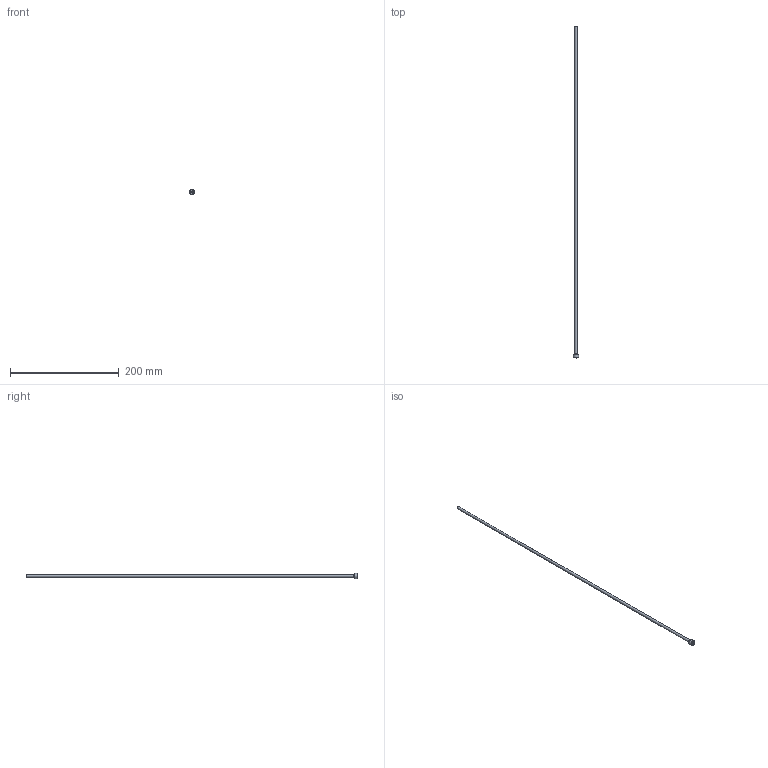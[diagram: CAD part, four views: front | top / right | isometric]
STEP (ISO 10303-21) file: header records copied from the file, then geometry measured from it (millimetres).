
FILE_DESCRIPTION(/* description */ (''),/* implementation_level */ '2;1');
FILE_NAME(/* name */ 'C:/Users/drich/Desktop/PT18-187-24 v1.step',/* time_stamp */ '2019-12-27T15:43:57-06:00',/* author */ (''),/* organization */ (''),/* preprocessor_version */ 'ST-DEVELOPER v18',/* originating_system */ 'Autodesk Translation Framework v8.12.0.6',/* authorisation */ '');
FILE_SCHEMA (('AUTOMOTIVE_DESIGN { 1 0 10303 214 3 1 1 }'));
Length unit declared in the file: inch
Products named in the file (1): PT18-187-24
Bounding box: 9.62 x 609.6 x 9.62 mm (x, y, z)
Volume: 2425.7 mm3; surface area: 17393.1 mm2
Topology: 1 solids, 1 shells, 19 faces, 48 edges, 34 vertices
Faces by surface type: plane 11, cylinder 4, torus 2, cone 2
Full cylindrical faces by diameter (mm): 4.242 x1, 4.724 x1, 6.35 x1, 9.621 x1
Entity records: 633 total; most frequent: DIRECTION 112, CARTESIAN_POINT 102, ORIENTED_EDGE 96, EDGE_CURVE 48, AXIS2_PLACEMENT_3D 44, VERTEX_POINT 34, CIRCLE 24, EDGE_LOOP 24
